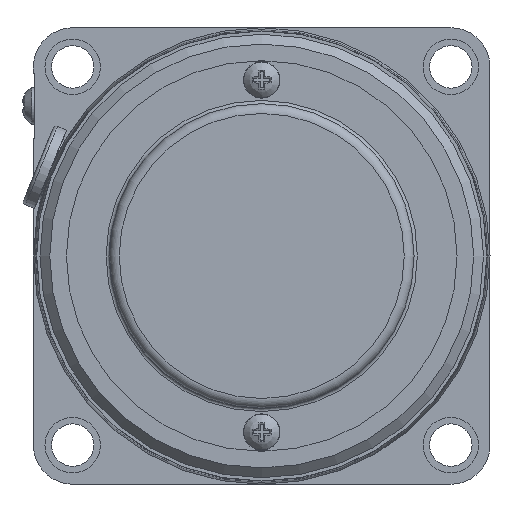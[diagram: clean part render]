
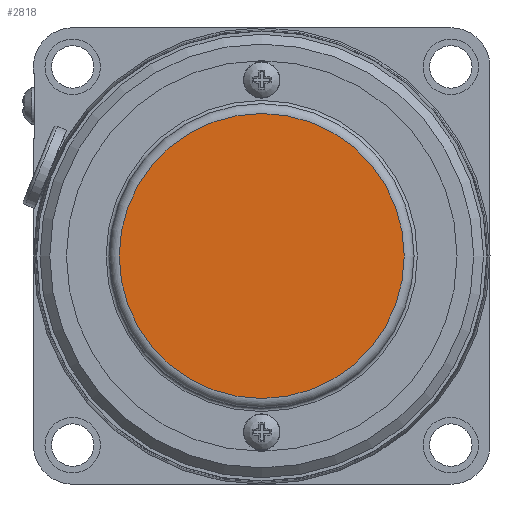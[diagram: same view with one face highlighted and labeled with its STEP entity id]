
A CAD part, left-side view. The second image highlights one B-rep face of the part: STEP entity #2818.
In plain terms, the highlighted planar face has unit normal (-1, 0, 0).
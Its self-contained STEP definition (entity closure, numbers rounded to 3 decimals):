
#255=CIRCLE('',#3092,21.85);
#457=FACE_OUTER_BOUND('',#687,.T.);
#687=EDGE_LOOP('',(#2308));
#1317=VERTEX_POINT('',#4817);
#1655=EDGE_CURVE('',#1317,#1317,#255,.T.);
#2308=ORIENTED_EDGE('',*,*,#1655,.F.);
#2492=PLANE('',#3093);
#2818=ADVANCED_FACE('',(#457),#2492,.F.);
#3092=AXIS2_PLACEMENT_3D('',#4818,#3776,#3777);
#3093=AXIS2_PLACEMENT_3D('',#4819,#3778,#3779);
#3776=DIRECTION('center_axis',(1.,0.,0.));
#3777=DIRECTION('ref_axis',(0.,0.,-1.));
#3778=DIRECTION('center_axis',(1.,0.,0.));
#3779=DIRECTION('ref_axis',(0.,0.,-1.));
#4817=CARTESIAN_POINT('',(-11.8,0.,21.85));
#4818=CARTESIAN_POINT('Origin',(-11.8,0.,0.));
#4819=CARTESIAN_POINT('Origin',(-11.8,0.,0.));
